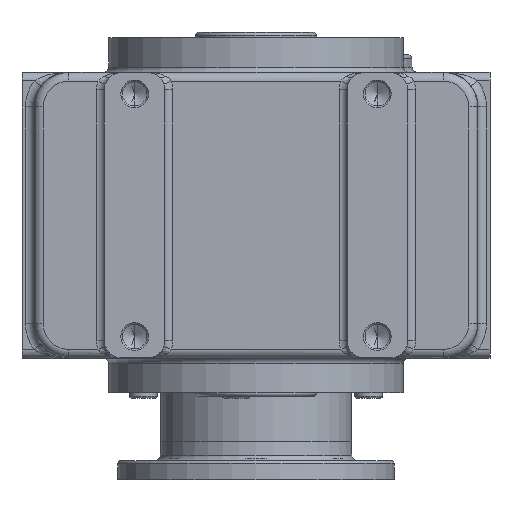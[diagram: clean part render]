
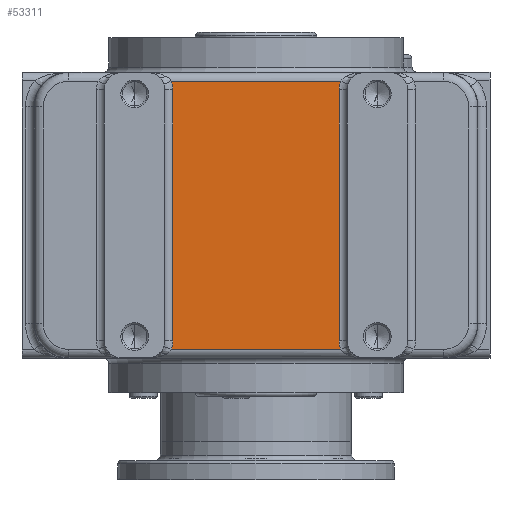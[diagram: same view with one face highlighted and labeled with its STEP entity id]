
A CAD part, front view. The second image highlights one B-rep face of the part: STEP entity #53311.
In plain terms, the highlighted planar face has unit normal (0, -1, 0).
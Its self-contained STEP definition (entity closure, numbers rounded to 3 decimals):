
#36752 = DIRECTION ( 'NONE',  ( 0., 0., -1. ) ) ;
#36753 = DIRECTION ( 'NONE',  ( 0., 1., 0. ) ) ;
#36754 = CARTESIAN_POINT ( 'NONE',  ( 62.5, -120., 10.175 ) ) ;
#36755 = AXIS2_PLACEMENT_3D ( 'NONE', #36754, #36753, #36752 ) ;
#36756 = CIRCLE ( 'NONE', #36755, 14.556 ) ;
#53217 = ORIENTED_EDGE ( 'NONE', *, *, #53219, .T. ) ;
#53219 = EDGE_CURVE ( 'NONE', #53340, #53221, #98610, .T. ) ;
#53221 = VERTEX_POINT ( 'NONE', #98606 ) ;
#53223 = ORIENTED_EDGE ( 'NONE', *, *, #53452, .T. ) ;
#53311 = ADVANCED_FACE ( 'NONE', ( #100530 ), #100506, .T. ) ;
#53314 = EDGE_LOOP ( 'NONE', ( #53316, #53336, #53217, #53223, #53464, #53470, #53460, #54656 ) ) ;
#53316 = ORIENTED_EDGE ( 'NONE', *, *, #53330, .T. ) ;
#53330 = EDGE_CURVE ( 'NONE', #53332, #53334, #100569, .T. ) ;
#53332 = VERTEX_POINT ( 'NONE', #100565 ) ;
#53334 = VERTEX_POINT ( 'NONE', #100564 ) ;
#53336 = ORIENTED_EDGE ( 'NONE', *, *, #53338, .T. ) ;
#53338 = EDGE_CURVE ( 'NONE', #53334, #53340, #100562, .T. ) ;
#53340 = VERTEX_POINT ( 'NONE', #100563 ) ;
#53450 = VERTEX_POINT ( 'NONE', #100690 ) ;
#53452 = EDGE_CURVE ( 'NONE', #53221, #53468, #100689, .T. ) ;
#53455 = EDGE_CURVE ( 'NONE', #53450, #53466, #100677, .T. ) ;
#53457 = EDGE_CURVE ( 'NONE', #53466, #53462, #100673, .T. ) ;
#53460 = ORIENTED_EDGE ( 'NONE', *, *, #53457, .T. ) ;
#53462 = VERTEX_POINT ( 'NONE', #100669 ) ;
#53464 = ORIENTED_EDGE ( 'NONE', *, *, #53472, .T. ) ;
#53466 = VERTEX_POINT ( 'NONE', #100668 ) ;
#53468 = VERTEX_POINT ( 'NONE', #100667 ) ;
#53470 = ORIENTED_EDGE ( 'NONE', *, *, #53455, .T. ) ;
#53472 = EDGE_CURVE ( 'NONE', #53468, #53450, #100730, .T. ) ;
#54634 = EDGE_CURVE ( 'NONE', #53462, #53332, #36756, .T. ) ;
#54656 = ORIENTED_EDGE ( 'NONE', *, *, #54634, .T. ) ;
#98606 = CARTESIAN_POINT ( 'NONE',  ( -48.845, -120., 159.869 ) ) ;
#98607 = DIRECTION ( 'NONE',  ( -1., 0., 0. ) ) ;
#98608 = VECTOR ( 'NONE', #98607, 1000. ) ;
#98609 = CARTESIAN_POINT ( 'NONE',  ( -62.5, -120., 159.869 ) ) ;
#98610 = LINE ( 'NONE', #98609, #98608 ) ;
#100502 = DIRECTION ( 'NONE',  ( 0., 0., -1. ) ) ;
#100503 = DIRECTION ( 'NONE',  ( 0., -1., 0. ) ) ;
#100504 = CARTESIAN_POINT ( 'NONE',  ( -108., -120., 145. ) ) ;
#100505 = AXIS2_PLACEMENT_3D ( 'NONE', #100504, #100503, #100502 ) ;
#100506 = PLANE ( 'NONE',  #100505 ) ;
#100530 = FACE_OUTER_BOUND ( 'NONE', #53314, .T. ) ;
#100558 = DIRECTION ( 'NONE',  ( 0., 0., -1. ) ) ;
#100559 = DIRECTION ( 'NONE',  ( 0., 1., 0. ) ) ;
#100560 = CARTESIAN_POINT ( 'NONE',  ( 62.5, -120., 154.825 ) ) ;
#100561 = AXIS2_PLACEMENT_3D ( 'NONE', #100560, #100559, #100558 ) ;
#100562 = CIRCLE ( 'NONE', #100561, 14.556 ) ;
#100563 = CARTESIAN_POINT ( 'NONE',  ( 48.845, -120., 159.869 ) ) ;
#100564 = CARTESIAN_POINT ( 'NONE',  ( 47.944, -120., 154.825 ) ) ;
#100565 = CARTESIAN_POINT ( 'NONE',  ( 47.944, -120., 10.175 ) ) ;
#100566 = DIRECTION ( 'NONE',  ( 0., 0., 1. ) ) ;
#100567 = VECTOR ( 'NONE', #100566, 1000. ) ;
#100568 = CARTESIAN_POINT ( 'NONE',  ( 47.944, -120., 154.825 ) ) ;
#100569 = LINE ( 'NONE', #100568, #100567 ) ;
#100667 = CARTESIAN_POINT ( 'NONE',  ( -47.944, -120., 154.825 ) ) ;
#100668 = CARTESIAN_POINT ( 'NONE',  ( -48.845, -120., 5.131 ) ) ;
#100669 = CARTESIAN_POINT ( 'NONE',  ( 48.845, -120., 5.131 ) ) ;
#100670 = DIRECTION ( 'NONE',  ( 1., 0., 0. ) ) ;
#100671 = VECTOR ( 'NONE', #100670, 1000. ) ;
#100672 = CARTESIAN_POINT ( 'NONE',  ( 62.5, -120., 5.131 ) ) ;
#100673 = LINE ( 'NONE', #100672, #100671 ) ;
#100674 = DIRECTION ( 'NONE',  ( 0., 0., -1. ) ) ;
#100675 = DIRECTION ( 'NONE',  ( 0., 1., 0. ) ) ;
#100676 = AXIS2_PLACEMENT_3D ( 'NONE', #100682, #100675, #100674 ) ;
#100677 = CIRCLE ( 'NONE', #100676, 14.556 ) ;
#100682 = CARTESIAN_POINT ( 'NONE',  ( -62.5, -120., 10.175 ) ) ;
#100685 = DIRECTION ( 'NONE',  ( 0., 0., -1. ) ) ;
#100686 = DIRECTION ( 'NONE',  ( 0., 1., 0. ) ) ;
#100687 = CARTESIAN_POINT ( 'NONE',  ( -62.5, -120., 154.825 ) ) ;
#100688 = AXIS2_PLACEMENT_3D ( 'NONE', #100687, #100686, #100685 ) ;
#100689 = CIRCLE ( 'NONE', #100688, 14.556 ) ;
#100690 = CARTESIAN_POINT ( 'NONE',  ( -47.944, -120., 10.175 ) ) ;
#100727 = DIRECTION ( 'NONE',  ( 0., 0., -1. ) ) ;
#100728 = VECTOR ( 'NONE', #100727, 1000. ) ;
#100729 = CARTESIAN_POINT ( 'NONE',  ( -47.944, -120., 10.175 ) ) ;
#100730 = LINE ( 'NONE', #100729, #100728 ) ;
